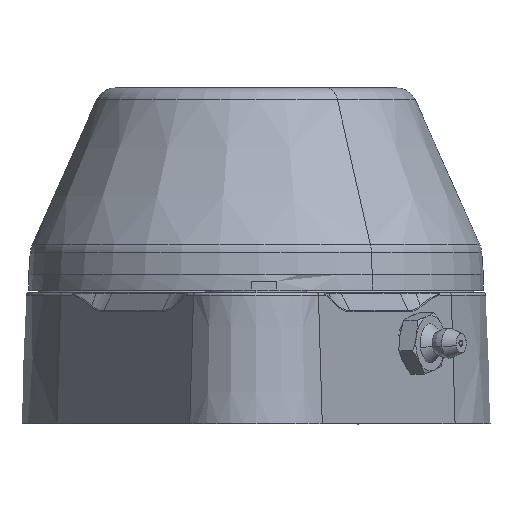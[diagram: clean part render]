
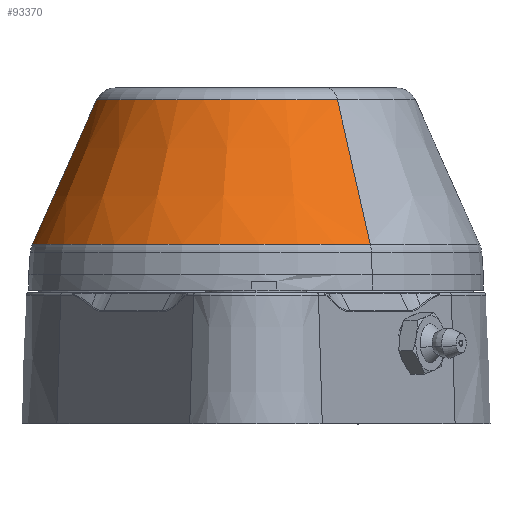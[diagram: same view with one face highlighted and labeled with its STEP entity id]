
A CAD part, left-side view. The second image highlights one B-rep face of the part: STEP entity #93370.
In plain terms, the highlighted conical face has half-angle 23.995 degrees and reference radius 31.556 mm.
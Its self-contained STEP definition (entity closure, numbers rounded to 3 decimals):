
#93306=CARTESIAN_POINT('Vertex',(-15.129,27.693,37.627)) ;
#93313=CARTESIAN_POINT('Vertex',(15.129,-27.693,37.627)) ;
#93316=CARTESIAN_POINT('Axis2P3D Location',(0.,0.,37.627)) ;
#93340=CARTESIAN_POINT('Axis2P3D Location',(0.,0.,37.627)) ;
#93345=CARTESIAN_POINT('Line Origine',(-18.178,33.274,23.34)) ;
#93349=CARTESIAN_POINT('Vertex',(-21.227,38.855,9.054)) ;
#93352=CARTESIAN_POINT('Line Origine',(18.178,-33.274,23.34)) ;
#93356=CARTESIAN_POINT('Vertex',(21.227,-38.855,9.054)) ;
#93359=CARTESIAN_POINT('Axis2P3D Location',(0.,0.,9.054)) ;
#93317=DIRECTION('Axis2P3D Direction',(0.,0.,1.)) ;
#93341=DIRECTION('Axis2P3D Direction',(-0.,-0.,-1.)) ;
#93342=DIRECTION('Axis2P3D XDirection',(-0.479,0.878,0.)) ;
#93346=DIRECTION('Vector Direction',(-0.195,0.357,-0.914)) ;
#93353=DIRECTION('Vector Direction',(0.195,-0.357,-0.914)) ;
#93360=DIRECTION('Axis2P3D Direction',(0.,0.,-1.)) ;
#93318=AXIS2_PLACEMENT_3D('Circle Axis2P3D',#93316,#93317,$) ;
#93343=AXIS2_PLACEMENT_3D('Cone Axis2P3D',#93340,#93341,#93342) ;
#93361=AXIS2_PLACEMENT_3D('Circle Axis2P3D',#93359,#93360,$) ;
#93365=ORIENTED_EDGE('',*,*,#93351,.T.) ;
#93366=ORIENTED_EDGE('',*,*,#93320,.F.) ;
#93367=ORIENTED_EDGE('',*,*,#93358,.F.) ;
#93368=ORIENTED_EDGE('',*,*,#93363,.T.) ;
#93347=VECTOR('Line Direction',#93346,1.) ;
#93354=VECTOR('Line Direction',#93353,1.) ;
#93370=ADVANCED_FACE('PartBody',(#93369),#93344,.T.) ;
#93319=CIRCLE('generated circle',#93318,31.556) ;
#93362=CIRCLE('generated circle',#93361,44.275) ;
#93344=CONICAL_SURFACE('Cone',#93343,31.556,0.419) ;
#93320=EDGE_CURVE('',#93314,#93307,#93319,.T.) ;
#93351=EDGE_CURVE('',#93350,#93307,#93348,.F.) ;
#93358=EDGE_CURVE('',#93357,#93314,#93355,.F.) ;
#93363=EDGE_CURVE('',#93357,#93350,#93362,.F.) ;
#93364=EDGE_LOOP('',(#93365,#93366,#93367,#93368)) ;
#93369=FACE_OUTER_BOUND('',#93364,.T.) ;
#93348=LINE('Line',#93345,#93347) ;
#93355=LINE('Line',#93352,#93354) ;
#93307=VERTEX_POINT('',#93306) ;
#93314=VERTEX_POINT('',#93313) ;
#93350=VERTEX_POINT('',#93349) ;
#93357=VERTEX_POINT('',#93356) ;
